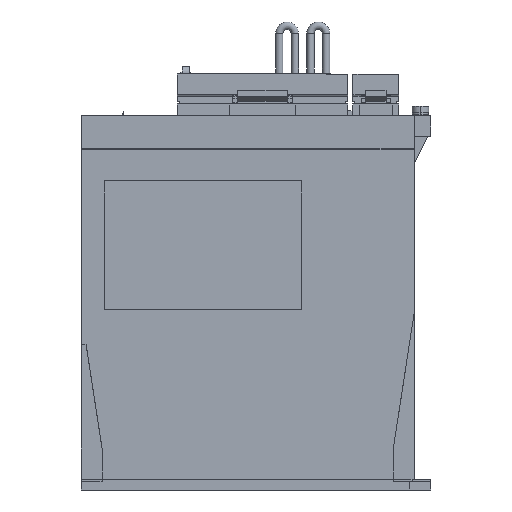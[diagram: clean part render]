
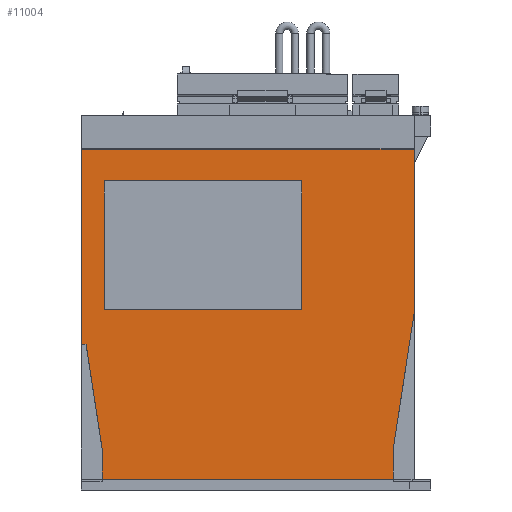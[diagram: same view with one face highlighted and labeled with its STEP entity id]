
A CAD part, left-side view. The second image highlights one B-rep face of the part: STEP entity #11004.
In plain terms, the highlighted planar face has unit normal (-1, 0, 0).
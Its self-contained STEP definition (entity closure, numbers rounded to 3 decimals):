
#10537 = VERTEX_POINT ( 'NONE', #40341 ) ;
#10542 = EDGE_CURVE ( 'NONE', #10543, #10537, #40335, .T. ) ;
#10543 = VERTEX_POINT ( 'NONE', #40331 ) ;
#10842 = VERTEX_POINT ( 'NONE', #40875 ) ;
#10846 = EDGE_CURVE ( 'NONE', #10842, #10847, #40874, .T. ) ;
#10847 = VERTEX_POINT ( 'NONE', #40870 ) ;
#10925 = ORIENTED_EDGE ( 'NONE', *, *, #10927, .F. ) ;
#10927 = EDGE_CURVE ( 'NONE', #10929, #10931, #40988, .T. ) ;
#10929 = VERTEX_POINT ( 'NONE', #40978 ) ;
#10931 = VERTEX_POINT ( 'NONE', #40977 ) ;
#10933 = ORIENTED_EDGE ( 'NONE', *, *, #10934, .F. ) ;
#10934 = EDGE_CURVE ( 'NONE', #10936, #10929, #41038, .T. ) ;
#10936 = VERTEX_POINT ( 'NONE', #41034 ) ;
#10938 = ORIENTED_EDGE ( 'NONE', *, *, #10939, .F. ) ;
#10939 = EDGE_CURVE ( 'NONE', #10941, #10936, #41033, .T. ) ;
#10941 = VERTEX_POINT ( 'NONE', #41029 ) ;
#10973 = ORIENTED_EDGE ( 'NONE', *, *, #10974, .F. ) ;
#10974 = EDGE_CURVE ( 'NONE', #10931, #10941, #41047, .T. ) ;
#10976 = EDGE_LOOP ( 'NONE', ( #10977, #10979, #10986, #10991, #11021, #11027, #11033, #11038, #11040 ) ) ;
#10977 = ORIENTED_EDGE ( 'NONE', *, *, #10542, .T. ) ;
#10979 = ORIENTED_EDGE ( 'NONE', *, *, #10981, .T. ) ;
#10981 = EDGE_CURVE ( 'NONE', #10537, #10983, #41043, .T. ) ;
#10983 = VERTEX_POINT ( 'NONE', #41101 ) ;
#10986 = ORIENTED_EDGE ( 'NONE', *, *, #10987, .F. ) ;
#10987 = EDGE_CURVE ( 'NONE', #10989, #10983, #41094, .T. ) ;
#10989 = VERTEX_POINT ( 'NONE', #41090 ) ;
#10991 = ORIENTED_EDGE ( 'NONE', *, *, #10992, .T. ) ;
#10992 = EDGE_CURVE ( 'NONE', #10989, #10994, #41089, .T. ) ;
#10994 = VERTEX_POINT ( 'NONE', #41085 ) ;
#11004 = ADVANCED_FACE ( 'NONE', ( #41078, #41077 ), #41076, .F. ) ;
#11005 = EDGE_LOOP ( 'NONE', ( #10925, #10933, #10938, #10973 ) ) ;
#11021 = ORIENTED_EDGE ( 'NONE', *, *, #11024, .T. ) ;
#11024 = EDGE_CURVE ( 'NONE', #10994, #11025, #41106, .T. ) ;
#11025 = VERTEX_POINT ( 'NONE', #41161 ) ;
#11027 = ORIENTED_EDGE ( 'NONE', *, *, #11029, .F. ) ;
#11029 = EDGE_CURVE ( 'NONE', #11031, #11025, #41160, .T. ) ;
#11031 = VERTEX_POINT ( 'NONE', #41152 ) ;
#11033 = ORIENTED_EDGE ( 'NONE', *, *, #11035, .T. ) ;
#11035 = EDGE_CURVE ( 'NONE', #11031, #10847, #41150, .T. ) ;
#11038 = ORIENTED_EDGE ( 'NONE', *, *, #10846, .F. ) ;
#11040 = ORIENTED_EDGE ( 'NONE', *, *, #11042, .F. ) ;
#11042 = EDGE_CURVE ( 'NONE', #10543, #10842, #41202, .T. ) ;
#40331 = CARTESIAN_POINT ( 'NONE',  ( -5., 5., 163.8 ) ) ;
#40332 = DIRECTION ( 'NONE',  ( 0., 0., -1. ) ) ;
#40333 = VECTOR ( 'NONE', #40332, 1000. ) ;
#40334 = CARTESIAN_POINT ( 'NONE',  ( -5., 5., 347.576 ) ) ;
#40335 = LINE ( 'NONE', #40334, #40333 ) ;
#40341 = CARTESIAN_POINT ( 'NONE',  ( -5., 5., 70. ) ) ;
#40870 = CARTESIAN_POINT ( 'NONE',  ( -5., -155., 85. ) ) ;
#40871 = DIRECTION ( 'NONE',  ( 0., 0., -1. ) ) ;
#40872 = VECTOR ( 'NONE', #40871, 1000. ) ;
#40873 = CARTESIAN_POINT ( 'NONE',  ( -5., -155., 347.576 ) ) ;
#40874 = LINE ( 'NONE', #40873, #40872 ) ;
#40875 = CARTESIAN_POINT ( 'NONE',  ( -5., -155., 163.8 ) ) ;
#40977 = CARTESIAN_POINT ( 'NONE',  ( -5., -101., 86.6 ) ) ;
#40978 = CARTESIAN_POINT ( 'NONE',  ( -5., -6., 86.6 ) ) ;
#40985 = DIRECTION ( 'NONE',  ( 0., -1., 0. ) ) ;
#40986 = VECTOR ( 'NONE', #40985, 1000. ) ;
#40987 = CARTESIAN_POINT ( 'NONE',  ( -5., -6., 86.6 ) ) ;
#40988 = LINE ( 'NONE', #40987, #40986 ) ;
#41029 = CARTESIAN_POINT ( 'NONE',  ( -5., -101., 148.6 ) ) ;
#41030 = DIRECTION ( 'NONE',  ( 0., 1., 0. ) ) ;
#41031 = VECTOR ( 'NONE', #41030, 1000. ) ;
#41032 = CARTESIAN_POINT ( 'NONE',  ( -5., -6., 148.6 ) ) ;
#41033 = LINE ( 'NONE', #41032, #41031 ) ;
#41034 = CARTESIAN_POINT ( 'NONE',  ( -5., -6., 148.6 ) ) ;
#41035 = DIRECTION ( 'NONE',  ( 0., 0., -1. ) ) ;
#41036 = VECTOR ( 'NONE', #41035, 1000. ) ;
#41037 = CARTESIAN_POINT ( 'NONE',  ( -5., -6., 86.6 ) ) ;
#41038 = LINE ( 'NONE', #41037, #41036 ) ;
#41040 = DIRECTION ( 'NONE',  ( 0., -1., 0. ) ) ;
#41041 = VECTOR ( 'NONE', #41040, 1000. ) ;
#41042 = CARTESIAN_POINT ( 'NONE',  ( -5., 5., 70. ) ) ;
#41043 = LINE ( 'NONE', #41042, #41041 ) ;
#41044 = DIRECTION ( 'NONE',  ( 0., 0., 1. ) ) ;
#41045 = VECTOR ( 'NONE', #41044, 1000. ) ;
#41046 = CARTESIAN_POINT ( 'NONE',  ( -5., -101., 86.6 ) ) ;
#41047 = LINE ( 'NONE', #41046, #41045 ) ;
#41072 = DIRECTION ( 'NONE',  ( 0., 1., 0. ) ) ;
#41073 = DIRECTION ( 'NONE',  ( 1., 0., 0. ) ) ;
#41074 = CARTESIAN_POINT ( 'NONE',  ( -5., 5., 347.576 ) ) ;
#41075 = AXIS2_PLACEMENT_3D ( 'NONE', #41074, #41073, #41072 ) ;
#41076 = PLANE ( 'NONE',  #41075 ) ;
#41077 = FACE_OUTER_BOUND ( 'NONE', #10976, .T. ) ;
#41078 = FACE_BOUND ( 'NONE', #11005, .T. ) ;
#41085 = CARTESIAN_POINT ( 'NONE',  ( -5., -5., 5.2 ) ) ;
#41086 = DIRECTION ( 'NONE',  ( 0., 0., -1. ) ) ;
#41087 = VECTOR ( 'NONE', #41086, 1000. ) ;
#41088 = CARTESIAN_POINT ( 'NONE',  ( -5., -5., 20. ) ) ;
#41089 = LINE ( 'NONE', #41088, #41087 ) ;
#41090 = CARTESIAN_POINT ( 'NONE',  ( -5., -5., 20. ) ) ;
#41091 = DIRECTION ( 'NONE',  ( 0., 0.152, 0.988 ) ) ;
#41092 = VECTOR ( 'NONE', #41091, 1000. ) ;
#41093 = CARTESIAN_POINT ( 'NONE',  ( -5., -5., 20. ) ) ;
#41094 = LINE ( 'NONE', #41093, #41092 ) ;
#41101 = CARTESIAN_POINT ( 'NONE',  ( -5., 2.692, 70. ) ) ;
#41106 = LINE ( 'NONE', #41164, #41163 ) ;
#41147 = DIRECTION ( 'NONE',  ( 0., -0.152, 0.988 ) ) ;
#41148 = VECTOR ( 'NONE', #41147, 1000. ) ;
#41149 = CARTESIAN_POINT ( 'NONE',  ( -5., -145., 20. ) ) ;
#41150 = LINE ( 'NONE', #41149, #41148 ) ;
#41152 = CARTESIAN_POINT ( 'NONE',  ( -5., -145., 20. ) ) ;
#41157 = DIRECTION ( 'NONE',  ( 0., 0., -1. ) ) ;
#41158 = VECTOR ( 'NONE', #41157, 1000. ) ;
#41159 = CARTESIAN_POINT ( 'NONE',  ( -5., -145., 20. ) ) ;
#41160 = LINE ( 'NONE', #41159, #41158 ) ;
#41161 = CARTESIAN_POINT ( 'NONE',  ( -5., -145., 5.2 ) ) ;
#41162 = DIRECTION ( 'NONE',  ( 0., -1., 0. ) ) ;
#41163 = VECTOR ( 'NONE', #41162, 1000. ) ;
#41164 = CARTESIAN_POINT ( 'NONE',  ( -5., -5., 5.2 ) ) ;
#41199 = DIRECTION ( 'NONE',  ( 0., -1., 0. ) ) ;
#41200 = VECTOR ( 'NONE', #41199, 1000. ) ;
#41201 = CARTESIAN_POINT ( 'NONE',  ( -5., 5., 163.8 ) ) ;
#41202 = LINE ( 'NONE', #41201, #41200 ) ;
